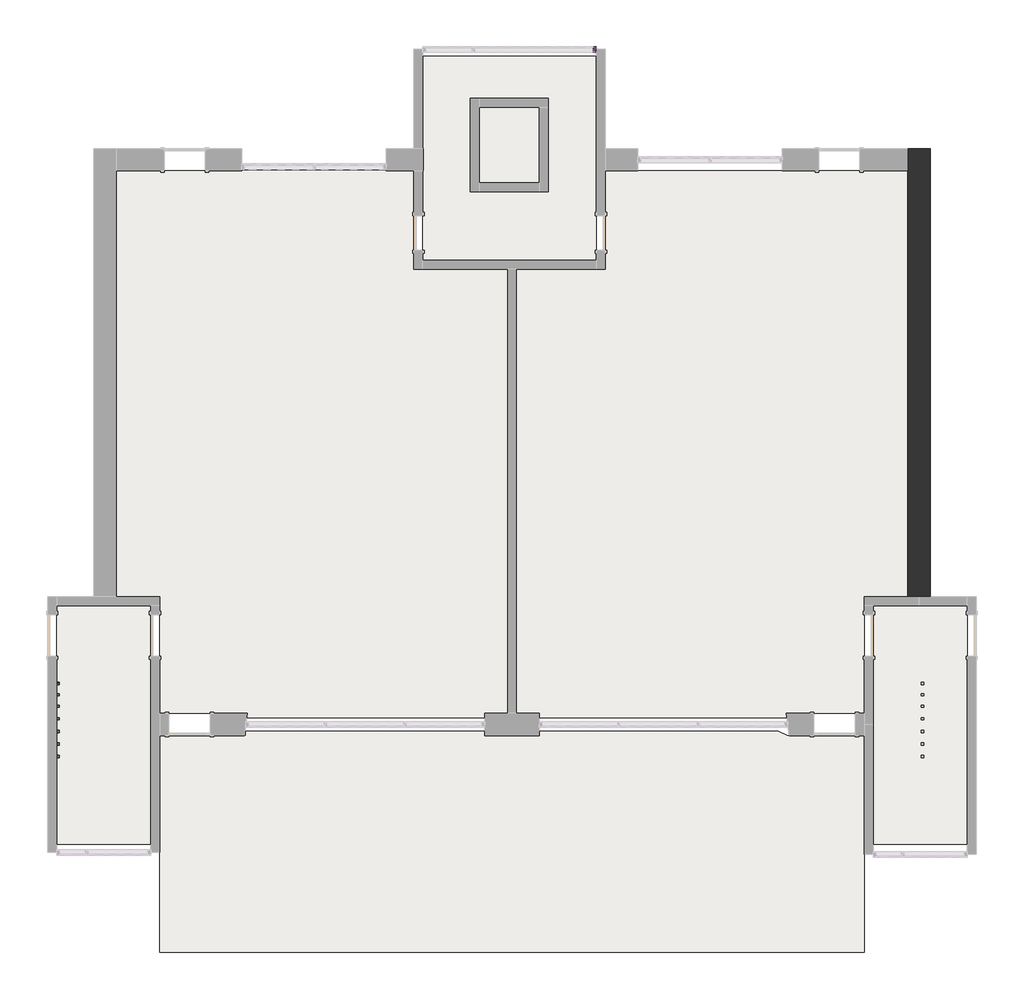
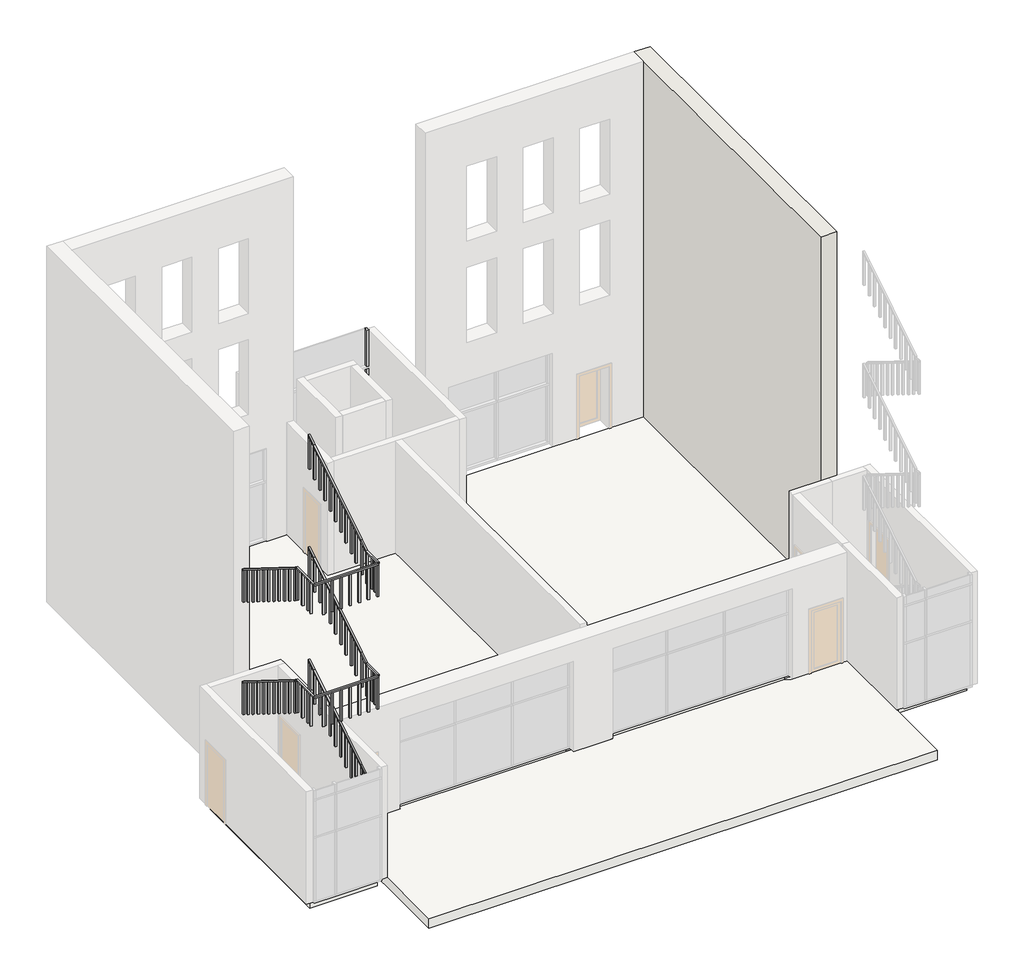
# One storey, part 3 of 4: 5 slabs, 2 members, 1 railing, 1 wall.
"""IFC4 building model written with IfcOpenShell, lengths in millimetres."""

from ifc_helpers import new_model, si_unit, frame, origin, place, context, project, spatial, polyline, outline, extrude, faceted_brep, element, save

model = new_model("IFC4")

# Units and contexts
model_context = context("Model", 3, world=origin())
ifc_project = project(units=[si_unit("LENGTHUNIT", "METRE", prefix="MILLI")], contexts=[model_context])

# Site, building, storey
site = spatial("IfcSite", under=ifc_project)
building = spatial("IfcBuilding", under=site)
storey = spatial("IfcBuildingStorey", under=building, Name="1st Flr. Cnst.", Elevation=0.0)

# Members
placement = place(None, origin())
element("IfcMember", 1, ObjectType="Rectangular Mullion : 2.5\" x 5\" rectangular", at=placement, inside=storey, context=model_context, shape_type="SweptSolid", body=[
    extrude(outline(polyline([(9618.6821195, 12022.7617365), (9555.1821195, 12022.7617365), (9555.1821195, 12149.7617365), (9618.6821195, 12149.7617365), (9618.6821195, 12022.7617365)])), frame((0.0, 0.0, 63.5), z_axis=(0.0, 0.0, 1.0), x_axis=(1.0, 0.0, 0.0)), (0.0, 0.0, 1.0), 2343.15),
])
element("IfcMember", 2, ObjectType="Rectangular Mullion : 2.5\" x 5\" rectangular", at=placement, inside=storey, context=model_context, shape_type="SweptSolid", body=[
    extrude(outline(polyline([(9618.6821195, 12022.7617365), (9555.1821195, 12022.7617365), (9555.1821195, 12149.7617365), (9618.6821195, 12149.7617365), (9618.6821195, 12022.7617365)])), frame((0.0, 0.0, 2470.15), z_axis=(0.0, 0.0, 1.0), x_axis=(1.0, 0.0, 0.0)), (0.0, 0.0, 1.0), 1187.45),
])

# Railing
element("IfcRailing", 3, ObjectType="Stairs Railing 1", at=placement, inside=storey, context=model_context, shape_type="SweptSolid", body=[
    extrude(outline(polyline([(-4763.1115872, 10247.0857143), (-4763.1115872, 10297.8857143), (-1969.1115872, 8556.1714286), (-1969.1115872, 8505.3714286), (-4763.1115872, 10247.0857143)])), frame((-2364.2286996, 0.0, 0.0), z_axis=(1.0, 0.0, 0.0), x_axis=(0.0, 1.0, 0.0)), (0.0, 0.0, 1.0), 50.8),
    extrude(outline(polyline([(-1969.1115872, 8505.3714286), (-1969.1115872, 7489.3714286), (-2019.9115872, 7489.3714286), (-2019.9115872, 8537.038961), (-1969.1115872, 8505.3714286)])), frame((-2364.2286996, 0.0, 0.0), z_axis=(1.0, 0.0, 0.0), x_axis=(0.0, 1.0, 0.0)), (0.0, 0.0, 1.0), 50.8),
    extrude(outline(polyline([(-2223.1115872, 8663.7090909), (-2223.1115872, 7647.7090909), (-2273.9115872, 7647.7090909), (-2273.9115872, 8695.3766234), (-2223.1115872, 8663.7090909)])), frame((-2364.2286996, 0.0, 0.0), z_axis=(1.0, 0.0, 0.0), x_axis=(0.0, 1.0, 0.0)), (0.0, 0.0, 1.0), 50.8),
    extrude(outline(polyline([(-2477.1115872, 8822.0467532), (-2477.1115872, 7806.0467532), (-2527.9115872, 7806.0467532), (-2527.9115872, 8853.7142857), (-2477.1115872, 8822.0467532)])), frame((-2364.2286996, 0.0, 0.0), z_axis=(1.0, 0.0, 0.0), x_axis=(0.0, 1.0, 0.0)), (0.0, 0.0, 1.0), 50.8),
    extrude(outline(polyline([(-2756.5115872, 8996.2181818), (-2756.5115872, 7980.2181818), (-2807.3115872, 7980.2181818), (-2807.3115872, 9027.8857143), (-2756.5115872, 8996.2181818)])), frame((-2364.2286996, 0.0, 0.0), z_axis=(1.0, 0.0, 0.0), x_axis=(0.0, 1.0, 0.0)), (0.0, 0.0, 1.0), 50.8),
    extrude(outline(polyline([(-3035.9115872, 9170.3896104), (-3035.9115872, 8154.3896104), (-3086.7115872, 8154.3896104), (-3086.7115872, 9202.0571429), (-3035.9115872, 9170.3896104)])), frame((-2364.2286996, 0.0, 0.0), z_axis=(1.0, 0.0, 0.0), x_axis=(0.0, 1.0, 0.0)), (0.0, 0.0, 1.0), 50.8),
    extrude(outline(polyline([(-3315.3115872, 9344.561039), (-3315.3115872, 8328.561039), (-3366.1115872, 8328.561039), (-3366.1115872, 9376.2285714), (-3315.3115872, 9344.561039)])), frame((-2364.2286996, 0.0, 0.0), z_axis=(1.0, 0.0, 0.0), x_axis=(0.0, 1.0, 0.0)), (0.0, 0.0, 1.0), 50.8),
    extrude(outline(polyline([(-3594.7115872, 9518.7324675), (-3594.7115872, 8502.7324675), (-3645.5115872, 8502.7324675), (-3645.5115872, 9550.4), (-3594.7115872, 9518.7324675)])), frame((-2364.2286996, 0.0, 0.0), z_axis=(1.0, 0.0, 0.0), x_axis=(0.0, 1.0, 0.0)), (0.0, 0.0, 1.0), 50.8),
    extrude(outline(polyline([(-3874.1115872, 9692.9038961), (-3874.1115872, 8676.9038961), (-3924.9115872, 8676.9038961), (-3924.9115872, 9724.5714286), (-3874.1115872, 9692.9038961)])), frame((-2364.2286996, 0.0, 0.0), z_axis=(1.0, 0.0, 0.0), x_axis=(0.0, 1.0, 0.0)), (0.0, 0.0, 1.0), 50.8),
    extrude(outline(polyline([(-4153.5115872, 9867.0753247), (-4153.5115872, 8851.0753247), (-4204.3115872, 8851.0753247), (-4204.3115872, 9898.7428571), (-4153.5115872, 9867.0753247)])), frame((-2364.2286996, 0.0, 0.0), z_axis=(1.0, 0.0, 0.0), x_axis=(0.0, 1.0, 0.0)), (0.0, 0.0, 1.0), 50.8),
    extrude(outline(polyline([(-4432.9115872, 10041.2467532), (-4432.9115872, 9025.2467532), (-4483.7115872, 9025.2467532), (-4483.7115872, 10072.9142857), (-4432.9115872, 10041.2467532)])), frame((-2364.2286996, 0.0, 0.0), z_axis=(1.0, 0.0, 0.0), x_axis=(0.0, 1.0, 0.0)), (0.0, 0.0, 1.0), 50.8),
    extrude(outline(polyline([(-4712.3115872, 10215.4181818), (-4712.3115872, 9199.4181818), (-4763.1115872, 9199.4181818), (-4763.1115872, 10247.0857143), (-4712.3115872, 10215.4181818)])), frame((-2364.2286996, 0.0, 0.0), z_axis=(1.0, 0.0, 0.0), x_axis=(0.0, 1.0, 0.0)), (0.0, 0.0, 1.0), 50.8),
    extrude(outline(polyline([(-2313.4286996, -4763.1115872), (-2262.6286996, -4763.1115872), (-2262.6286996, -5677.5115872), (-2313.4286996, -5677.5115872), (-2313.4286996, -4763.1115872)])), frame((0.0, 0.0, 10247.0857143), z_axis=(0.0, 0.0, 1.0), x_axis=(1.0, 0.0, 0.0)), (0.0, 0.0, 1.0), 50.8),
    extrude(outline(polyline([(-2313.4286996, -5525.1115872), (-2313.4286996, -5474.3115872), (-2262.6286996, -5474.3115872), (-2262.6286996, -5525.1115872), (-2313.4286996, -5525.1115872)])), frame((0.0, 0.0, 9231.0857143), z_axis=(0.0, 0.0, 1.0), x_axis=(1.0, 0.0, 0.0)), (0.0, 0.0, 1.0), 1016.0),
    extrude(outline(polyline([(-2313.4286996, -5372.7115872), (-2313.4286996, -5321.9115872), (-2262.6286996, -5321.9115872), (-2262.6286996, -5372.7115872), (-2313.4286996, -5372.7115872)])), frame((0.0, 0.0, 9231.0857143), z_axis=(0.0, 0.0, 1.0), x_axis=(1.0, 0.0, 0.0)), (0.0, 0.0, 1.0), 1016.0),
    extrude(outline(polyline([(-2313.4286996, -5093.3115872), (-2313.4286996, -5042.5115872), (-2262.6286996, -5042.5115872), (-2262.6286996, -5093.3115872), (-2313.4286996, -5093.3115872)])), frame((0.0, 0.0, 9231.0857143), z_axis=(0.0, 0.0, 1.0), x_axis=(1.0, 0.0, 0.0)), (0.0, 0.0, 1.0), 1016.0),
    extrude(outline(polyline([(-2313.4286996, -4813.9115872), (-2313.4286996, -4763.1115872), (-2262.6286996, -4763.1115872), (-2262.6286996, -4813.9115872), (-2313.4286996, -4813.9115872)])), frame((0.0, 0.0, 9231.0857143), z_axis=(0.0, 0.0, 1.0), x_axis=(1.0, 0.0, 0.0)), (0.0, 0.0, 1.0), 1016.0),
    extrude(outline(polyline([(-332.2286996, -5677.5115872), (-332.2286996, -5728.3115872), (-2313.4286996, -5728.3115872), (-2313.4286996, -5677.5115872), (-332.2286996, -5677.5115872)])), frame((0.0, 0.0, 10247.0857143), z_axis=(0.0, 0.0, 1.0), x_axis=(1.0, 0.0, 0.0)), (0.0, 0.0, 1.0), 50.8),
    extrude(outline(polyline([(-2046.7286996, -5677.5115872), (-1995.9286996, -5677.5115872), (-1995.9286996, -5728.3115872), (-2046.7286996, -5728.3115872), (-2046.7286996, -5677.5115872)])), frame((0.0, 0.0, 9231.0857143), z_axis=(0.0, 0.0, 1.0), x_axis=(1.0, 0.0, 0.0)), (0.0, 0.0, 1.0), 1016.0),
    extrude(outline(polyline([(-1780.0286996, -5677.5115872), (-1729.2286996, -5677.5115872), (-1729.2286996, -5728.3115872), (-1780.0286996, -5728.3115872), (-1780.0286996, -5677.5115872)])), frame((0.0, 0.0, 9231.0857143), z_axis=(0.0, 0.0, 1.0), x_axis=(1.0, 0.0, 0.0)), (0.0, 0.0, 1.0), 1016.0),
    extrude(outline(polyline([(-1500.6286996, -5677.5115872), (-1449.8286996, -5677.5115872), (-1449.8286996, -5728.3115872), (-1500.6286996, -5728.3115872), (-1500.6286996, -5677.5115872)])), frame((0.0, 0.0, 9231.0857143), z_axis=(0.0, 0.0, 1.0), x_axis=(1.0, 0.0, 0.0)), (0.0, 0.0, 1.0), 1016.0),
    extrude(outline(polyline([(-1221.2286996, -5677.5115872), (-1170.4286996, -5677.5115872), (-1170.4286996, -5728.3115872), (-1221.2286996, -5728.3115872), (-1221.2286996, -5677.5115872)])), frame((0.0, 0.0, 9231.0857143), z_axis=(0.0, 0.0, 1.0), x_axis=(1.0, 0.0, 0.0)), (0.0, 0.0, 1.0), 1016.0),
    extrude(outline(polyline([(-941.8286996, -5677.5115872), (-891.0286996, -5677.5115872), (-891.0286996, -5728.3115872), (-941.8286996, -5728.3115872), (-941.8286996, -5677.5115872)])), frame((0.0, 0.0, 9231.0857143), z_axis=(0.0, 0.0, 1.0), x_axis=(1.0, 0.0, 0.0)), (0.0, 0.0, 1.0), 1016.0),
    extrude(outline(polyline([(-662.4286996, -5677.5115872), (-611.6286996, -5677.5115872), (-611.6286996, -5728.3115872), (-662.4286996, -5728.3115872), (-662.4286996, -5677.5115872)])), frame((0.0, 0.0, 9231.0857143), z_axis=(0.0, 0.0, 1.0), x_axis=(1.0, 0.0, 0.0)), (0.0, 0.0, 1.0), 1016.0),
    extrude(outline(polyline([(-383.0286996, -5677.5115872), (-332.2286996, -5677.5115872), (-332.2286996, -5728.3115872), (-383.0286996, -5728.3115872), (-383.0286996, -5677.5115872)])), frame((0.0, 0.0, 9231.0857143), z_axis=(0.0, 0.0, 1.0), x_axis=(1.0, 0.0, 0.0)), (0.0, 0.0, 1.0), 1016.0),
    extrude(outline(polyline([(-332.2286996, -5042.5115872), (-281.4286996, -5042.5115872), (-281.4286996, -5677.5115872), (-332.2286996, -5677.5115872), (-332.2286996, -5042.5115872)])), frame((0.0, 0.0, 10247.0857143), z_axis=(0.0, 0.0, 1.0), x_axis=(1.0, 0.0, 0.0)), (0.0, 0.0, 1.0), 50.8),
    extrude(outline(polyline([(-332.2286996, -5525.1115872), (-332.2286996, -5474.3115872), (-281.4286996, -5474.3115872), (-281.4286996, -5525.1115872), (-332.2286996, -5525.1115872)])), frame((0.0, 0.0, 9231.0857143), z_axis=(0.0, 0.0, 1.0), x_axis=(1.0, 0.0, 0.0)), (0.0, 0.0, 1.0), 1016.0),
    extrude(outline(polyline([(-332.2286996, -5372.7115872), (-332.2286996, -5321.9115872), (-281.4286996, -5321.9115872), (-281.4286996, -5372.7115872), (-332.2286996, -5372.7115872)])), frame((0.0, 0.0, 9231.0857143), z_axis=(0.0, 0.0, 1.0), x_axis=(1.0, 0.0, 0.0)), (0.0, 0.0, 1.0), 1016.0),
    extrude(outline(polyline([(-332.2286996, -5093.3115872), (-332.2286996, -5042.5115872), (-281.4286996, -5042.5115872), (-281.4286996, -5093.3115872), (-332.2286996, -5093.3115872)])), frame((0.0, 0.0, 9231.0857143), z_axis=(0.0, 0.0, 1.0), x_axis=(1.0, 0.0, 0.0)), (0.0, 0.0, 1.0), 1016.0),
    extrude(outline(polyline([(-4763.1115872, 10472.0571429), (-4763.1115872, 10421.2571429), (-5042.5115872, 10247.0857143), (-5042.5115872, 10297.8857143), (-4763.1115872, 10472.0571429)])), frame((-332.2286996, 0.0, 0.0), z_axis=(1.0, 0.0, 0.0), x_axis=(0.0, 1.0, 0.0)), (0.0, 0.0, 1.0), 50.8),
    extrude(outline(polyline([(-4763.1115872, 10421.2571429), (-4763.1115872, 9373.5896104), (-4813.9115872, 9373.5896104), (-4813.9115872, 10389.5896104), (-4763.1115872, 10421.2571429)])), frame((-332.2286996, 0.0, 0.0), z_axis=(1.0, 0.0, 0.0), x_axis=(0.0, 1.0, 0.0)), (0.0, 0.0, 1.0), 50.8),
    extrude(outline(polyline([(-2248.5115872, 12039.6), (-2248.5115872, 11988.8), (-4763.1115872, 10421.2571429), (-4763.1115872, 10472.0571429), (-2248.5115872, 12039.6)])), frame((-332.2286996, 0.0, 0.0), z_axis=(1.0, 0.0, 0.0), x_axis=(0.0, 1.0, 0.0)), (0.0, 0.0, 1.0), 50.8),
    extrude(outline(polyline([(-4458.3115872, 10611.2623377), (-4458.3115872, 9563.5948052), (-4509.1115872, 9563.5948052), (-4509.1115872, 10579.5948052), (-4458.3115872, 10611.2623377)])), frame((-332.2286996, 0.0, 0.0), z_axis=(1.0, 0.0, 0.0), x_axis=(0.0, 1.0, 0.0)), (0.0, 0.0, 1.0), 50.8),
    extrude(outline(polyline([(-4204.3115872, 10769.6), (-4204.3115872, 9721.9324675), (-4255.1115872, 9721.9324675), (-4255.1115872, 10737.9324675), (-4204.3115872, 10769.6)])), frame((-332.2286996, 0.0, 0.0), z_axis=(1.0, 0.0, 0.0), x_axis=(0.0, 1.0, 0.0)), (0.0, 0.0, 1.0), 50.8),
    extrude(outline(polyline([(-3924.9115872, 10943.7714286), (-3924.9115872, 9896.1038961), (-3975.7115872, 9896.1038961), (-3975.7115872, 10912.1038961), (-3924.9115872, 10943.7714286)])), frame((-332.2286996, 0.0, 0.0), z_axis=(1.0, 0.0, 0.0), x_axis=(0.0, 1.0, 0.0)), (0.0, 0.0, 1.0), 50.8),
    extrude(outline(polyline([(-3645.5115872, 11117.9428571), (-3645.5115872, 10070.2753247), (-3696.3115872, 10070.2753247), (-3696.3115872, 11086.2753247), (-3645.5115872, 11117.9428571)])), frame((-332.2286996, 0.0, 0.0), z_axis=(1.0, 0.0, 0.0), x_axis=(0.0, 1.0, 0.0)), (0.0, 0.0, 1.0), 50.8),
    extrude(outline(polyline([(-3366.1115872, 11292.1142857), (-3366.1115872, 10244.4467532), (-3416.9115872, 10244.4467532), (-3416.9115872, 11260.4467532), (-3366.1115872, 11292.1142857)])), frame((-332.2286996, 0.0, 0.0), z_axis=(1.0, 0.0, 0.0), x_axis=(0.0, 1.0, 0.0)), (0.0, 0.0, 1.0), 50.8),
    extrude(outline(polyline([(-3086.7115872, 11466.2857143), (-3086.7115872, 10418.6181818), (-3137.5115872, 10418.6181818), (-3137.5115872, 11434.6181818), (-3086.7115872, 11466.2857143)])), frame((-332.2286996, 0.0, 0.0), z_axis=(1.0, 0.0, 0.0), x_axis=(0.0, 1.0, 0.0)), (0.0, 0.0, 1.0), 50.8),
    extrude(outline(polyline([(-2807.3115872, 11640.4571429), (-2807.3115872, 10592.7896104), (-2858.1115872, 10592.7896104), (-2858.1115872, 11608.7896104), (-2807.3115872, 11640.4571429)])), frame((-332.2286996, 0.0, 0.0), z_axis=(1.0, 0.0, 0.0), x_axis=(0.0, 1.0, 0.0)), (0.0, 0.0, 1.0), 50.8),
    extrude(outline(polyline([(-2527.9115872, 11814.6285714), (-2527.9115872, 10766.961039), (-2578.7115872, 10766.961039), (-2578.7115872, 11782.961039), (-2527.9115872, 11814.6285714)])), frame((-332.2286996, 0.0, 0.0), z_axis=(1.0, 0.0, 0.0), x_axis=(0.0, 1.0, 0.0)), (0.0, 0.0, 1.0), 50.8),
    extrude(outline(polyline([(-2248.5115872, 11988.8), (-2248.5115872, 10941.1324675), (-2299.3115872, 10941.1324675), (-2299.3115872, 11957.1324675), (-2248.5115872, 11988.8)])), frame((-332.2286996, 0.0, 0.0), z_axis=(1.0, 0.0, 0.0), x_axis=(0.0, 1.0, 0.0)), (0.0, 0.0, 1.0), 50.8),
    extrude(outline(polyline([(-1969.1115872, 12213.7714286), (-1969.1115872, 12162.9714286), (-2248.5115872, 11988.8), (-2248.5115872, 12039.6), (-1969.1115872, 12213.7714286)])), frame((-332.2286996, 0.0, 0.0), z_axis=(1.0, 0.0, 0.0), x_axis=(0.0, 1.0, 0.0)), (0.0, 0.0, 1.0), 50.8),
    extrude(outline(polyline([(-1969.1115872, 12162.9714286), (-1969.1115872, 11115.3038961), (-2019.9115872, 11115.3038961), (-2019.9115872, 12131.3038961), (-1969.1115872, 12162.9714286)])), frame((-332.2286996, 0.0, 0.0), z_axis=(1.0, 0.0, 0.0), x_axis=(0.0, 1.0, 0.0)), (0.0, 0.0, 1.0), 50.8),
    extrude(outline(polyline([(-4763.1115872, 6589.4857143), (-4763.1115872, 6640.2857143), (-1969.1115872, 4898.5714286), (-1969.1115872, 4847.7714286), (-4763.1115872, 6589.4857143)])), frame((-2364.2286996, 0.0, 0.0), z_axis=(1.0, 0.0, 0.0), x_axis=(0.0, 1.0, 0.0)), (0.0, 0.0, 1.0), 50.8),
    extrude(outline(polyline([(-1969.1115872, 4847.7714286), (-1969.1115872, 3831.7714286), (-2019.9115872, 3831.7714286), (-2019.9115872, 4879.438961), (-1969.1115872, 4847.7714286)])), frame((-2364.2286996, 0.0, 0.0), z_axis=(1.0, 0.0, 0.0), x_axis=(0.0, 1.0, 0.0)), (0.0, 0.0, 1.0), 50.8),
    extrude(outline(polyline([(-2223.1115872, 5006.1090909), (-2223.1115872, 3990.1090909), (-2273.9115872, 3990.1090909), (-2273.9115872, 5037.7766234), (-2223.1115872, 5006.1090909)])), frame((-2364.2286996, 0.0, 0.0), z_axis=(1.0, 0.0, 0.0), x_axis=(0.0, 1.0, 0.0)), (0.0, 0.0, 1.0), 50.8),
    extrude(outline(polyline([(-2477.1115872, 5164.4467532), (-2477.1115872, 4148.4467532), (-2527.9115872, 4148.4467532), (-2527.9115872, 5196.1142857), (-2477.1115872, 5164.4467532)])), frame((-2364.2286996, 0.0, 0.0), z_axis=(1.0, 0.0, 0.0), x_axis=(0.0, 1.0, 0.0)), (0.0, 0.0, 1.0), 50.8),
    extrude(outline(polyline([(-2756.5115872, 5338.6181818), (-2756.5115872, 4322.6181818), (-2807.3115872, 4322.6181818), (-2807.3115872, 5370.2857143), (-2756.5115872, 5338.6181818)])), frame((-2364.2286996, 0.0, 0.0), z_axis=(1.0, 0.0, 0.0), x_axis=(0.0, 1.0, 0.0)), (0.0, 0.0, 1.0), 50.8),
    extrude(outline(polyline([(-3035.9115872, 5512.7896104), (-3035.9115872, 4496.7896104), (-3086.7115872, 4496.7896104), (-3086.7115872, 5544.4571429), (-3035.9115872, 5512.7896104)])), frame((-2364.2286996, 0.0, 0.0), z_axis=(1.0, 0.0, 0.0), x_axis=(0.0, 1.0, 0.0)), (0.0, 0.0, 1.0), 50.8),
    extrude(outline(polyline([(-3315.3115872, 5686.961039), (-3315.3115872, 4670.961039), (-3366.1115872, 4670.961039), (-3366.1115872, 5718.6285714), (-3315.3115872, 5686.961039)])), frame((-2364.2286996, 0.0, 0.0), z_axis=(1.0, 0.0, 0.0), x_axis=(0.0, 1.0, 0.0)), (0.0, 0.0, 1.0), 50.8),
    extrude(outline(polyline([(-3594.7115872, 5861.1324675), (-3594.7115872, 4845.1324675), (-3645.5115872, 4845.1324675), (-3645.5115872, 5892.8), (-3594.7115872, 5861.1324675)])), frame((-2364.2286996, 0.0, 0.0), z_axis=(1.0, 0.0, 0.0), x_axis=(0.0, 1.0, 0.0)), (0.0, 0.0, 1.0), 50.8),
    extrude(outline(polyline([(-3874.1115872, 6035.3038961), (-3874.1115872, 5019.3038961), (-3924.9115872, 5019.3038961), (-3924.9115872, 6066.9714286), (-3874.1115872, 6035.3038961)])), frame((-2364.2286996, 0.0, 0.0), z_axis=(1.0, 0.0, 0.0), x_axis=(0.0, 1.0, 0.0)), (0.0, 0.0, 1.0), 50.8),
    extrude(outline(polyline([(-4153.5115872, 6209.4753247), (-4153.5115872, 5193.4753247), (-4204.3115872, 5193.4753247), (-4204.3115872, 6241.1428571), (-4153.5115872, 6209.4753247)])), frame((-2364.2286996, 0.0, 0.0), z_axis=(1.0, 0.0, 0.0), x_axis=(0.0, 1.0, 0.0)), (0.0, 0.0, 1.0), 50.8),
    extrude(outline(polyline([(-4432.9115872, 6383.6467532), (-4432.9115872, 5367.6467532), (-4483.7115872, 5367.6467532), (-4483.7115872, 6415.3142857), (-4432.9115872, 6383.6467532)])), frame((-2364.2286996, 0.0, 0.0), z_axis=(1.0, 0.0, 0.0), x_axis=(0.0, 1.0, 0.0)), (0.0, 0.0, 1.0), 50.8),
    extrude(outline(polyline([(-4712.3115872, 6557.8181818), (-4712.3115872, 5541.8181818), (-4763.1115872, 5541.8181818), (-4763.1115872, 6589.4857143), (-4712.3115872, 6557.8181818)])), frame((-2364.2286996, 0.0, 0.0), z_axis=(1.0, 0.0, 0.0), x_axis=(0.0, 1.0, 0.0)), (0.0, 0.0, 1.0), 50.8),
    extrude(outline(polyline([(-2313.4286996, -4763.1115872), (-2262.6286996, -4763.1115872), (-2262.6286996, -5677.5115872), (-2313.4286996, -5677.5115872), (-2313.4286996, -4763.1115872)])), frame((0.0, 0.0, 6589.4857143), z_axis=(0.0, 0.0, 1.0), x_axis=(1.0, 0.0, 0.0)), (0.0, 0.0, 1.0), 50.8),
    extrude(outline(polyline([(-2313.4286996, -5525.1115872), (-2313.4286996, -5474.3115872), (-2262.6286996, -5474.3115872), (-2262.6286996, -5525.1115872), (-2313.4286996, -5525.1115872)])), frame((0.0, 0.0, 5573.4857143), z_axis=(0.0, 0.0, 1.0), x_axis=(1.0, 0.0, 0.0)), (0.0, 0.0, 1.0), 1016.0),
    extrude(outline(polyline([(-2313.4286996, -5372.7115872), (-2313.4286996, -5321.9115872), (-2262.6286996, -5321.9115872), (-2262.6286996, -5372.7115872), (-2313.4286996, -5372.7115872)])), frame((0.0, 0.0, 5573.4857143), z_axis=(0.0, 0.0, 1.0), x_axis=(1.0, 0.0, 0.0)), (0.0, 0.0, 1.0), 1016.0),
    extrude(outline(polyline([(-2313.4286996, -5093.3115872), (-2313.4286996, -5042.5115872), (-2262.6286996, -5042.5115872), (-2262.6286996, -5093.3115872), (-2313.4286996, -5093.3115872)])), frame((0.0, 0.0, 5573.4857143), z_axis=(0.0, 0.0, 1.0), x_axis=(1.0, 0.0, 0.0)), (0.0, 0.0, 1.0), 1016.0),
    extrude(outline(polyline([(-2313.4286996, -4813.9115872), (-2313.4286996, -4763.1115872), (-2262.6286996, -4763.1115872), (-2262.6286996, -4813.9115872), (-2313.4286996, -4813.9115872)])), frame((0.0, 0.0, 5573.4857143), z_axis=(0.0, 0.0, 1.0), x_axis=(1.0, 0.0, 0.0)), (0.0, 0.0, 1.0), 1016.0),
    extrude(outline(polyline([(-332.2286996, -5677.5115872), (-332.2286996, -5728.3115872), (-2313.4286996, -5728.3115872), (-2313.4286996, -5677.5115872), (-332.2286996, -5677.5115872)])), frame((0.0, 0.0, 6589.4857143), z_axis=(0.0, 0.0, 1.0), x_axis=(1.0, 0.0, 0.0)), (0.0, 0.0, 1.0), 50.8),
    extrude(outline(polyline([(-2046.7286996, -5677.5115872), (-1995.9286996, -5677.5115872), (-1995.9286996, -5728.3115872), (-2046.7286996, -5728.3115872), (-2046.7286996, -5677.5115872)])), frame((0.0, 0.0, 5573.4857143), z_axis=(0.0, 0.0, 1.0), x_axis=(1.0, 0.0, 0.0)), (0.0, 0.0, 1.0), 1016.0),
    extrude(outline(polyline([(-1780.0286996, -5677.5115872), (-1729.2286996, -5677.5115872), (-1729.2286996, -5728.3115872), (-1780.0286996, -5728.3115872), (-1780.0286996, -5677.5115872)])), frame((0.0, 0.0, 5573.4857143), z_axis=(0.0, 0.0, 1.0), x_axis=(1.0, 0.0, 0.0)), (0.0, 0.0, 1.0), 1016.0),
    extrude(outline(polyline([(-1500.6286996, -5677.5115872), (-1449.8286996, -5677.5115872), (-1449.8286996, -5728.3115872), (-1500.6286996, -5728.3115872), (-1500.6286996, -5677.5115872)])), frame((0.0, 0.0, 5573.4857143), z_axis=(0.0, 0.0, 1.0), x_axis=(1.0, 0.0, 0.0)), (0.0, 0.0, 1.0), 1016.0),
    extrude(outline(polyline([(-1221.2286996, -5677.5115872), (-1170.4286996, -5677.5115872), (-1170.4286996, -5728.3115872), (-1221.2286996, -5728.3115872), (-1221.2286996, -5677.5115872)])), frame((0.0, 0.0, 5573.4857143), z_axis=(0.0, 0.0, 1.0), x_axis=(1.0, 0.0, 0.0)), (0.0, 0.0, 1.0), 1016.0),
    extrude(outline(polyline([(-941.8286996, -5677.5115872), (-891.0286996, -5677.5115872), (-891.0286996, -5728.3115872), (-941.8286996, -5728.3115872), (-941.8286996, -5677.5115872)])), frame((0.0, 0.0, 5573.4857143), z_axis=(0.0, 0.0, 1.0), x_axis=(1.0, 0.0, 0.0)), (0.0, 0.0, 1.0), 1016.0),
    extrude(outline(polyline([(-662.4286996, -5677.5115872), (-611.6286996, -5677.5115872), (-611.6286996, -5728.3115872), (-662.4286996, -5728.3115872), (-662.4286996, -5677.5115872)])), frame((0.0, 0.0, 5573.4857143), z_axis=(0.0, 0.0, 1.0), x_axis=(1.0, 0.0, 0.0)), (0.0, 0.0, 1.0), 1016.0),
    extrude(outline(polyline([(-383.0286996, -5677.5115872), (-332.2286996, -5677.5115872), (-332.2286996, -5728.3115872), (-383.0286996, -5728.3115872), (-383.0286996, -5677.5115872)])), frame((0.0, 0.0, 5573.4857143), z_axis=(0.0, 0.0, 1.0), x_axis=(1.0, 0.0, 0.0)), (0.0, 0.0, 1.0), 1016.0),
    extrude(outline(polyline([(-332.2286996, -5042.5115872), (-281.4286996, -5042.5115872), (-281.4286996, -5677.5115872), (-332.2286996, -5677.5115872), (-332.2286996, -5042.5115872)])), frame((0.0, 0.0, 6589.4857143), z_axis=(0.0, 0.0, 1.0), x_axis=(1.0, 0.0, 0.0)), (0.0, 0.0, 1.0), 50.8),
    extrude(outline(polyline([(-332.2286996, -5525.1115872), (-332.2286996, -5474.3115872), (-281.4286996, -5474.3115872), (-281.4286996, -5525.1115872), (-332.2286996, -5525.1115872)])), frame((0.0, 0.0, 5573.4857143), z_axis=(0.0, 0.0, 1.0), x_axis=(1.0, 0.0, 0.0)), (0.0, 0.0, 1.0), 1016.0),
    extrude(outline(polyline([(-332.2286996, -5372.7115872), (-332.2286996, -5321.9115872), (-281.4286996, -5321.9115872), (-281.4286996, -5372.7115872), (-332.2286996, -5372.7115872)])), frame((0.0, 0.0, 5573.4857143), z_axis=(0.0, 0.0, 1.0), x_axis=(1.0, 0.0, 0.0)), (0.0, 0.0, 1.0), 1016.0),
    extrude(outline(polyline([(-332.2286996, -5093.3115872), (-332.2286996, -5042.5115872), (-281.4286996, -5042.5115872), (-281.4286996, -5093.3115872), (-332.2286996, -5093.3115872)])), frame((0.0, 0.0, 5573.4857143), z_axis=(0.0, 0.0, 1.0), x_axis=(1.0, 0.0, 0.0)), (0.0, 0.0, 1.0), 1016.0),
    extrude(outline(polyline([(-4763.1115872, 6814.4571429), (-4763.1115872, 6763.6571429), (-5042.5115872, 6589.4857143), (-5042.5115872, 6640.2857143), (-4763.1115872, 6814.4571429)])), frame((-332.2286996, 0.0, 0.0), z_axis=(1.0, 0.0, 0.0), x_axis=(0.0, 1.0, 0.0)), (0.0, 0.0, 1.0), 50.8),
    extrude(outline(polyline([(-4763.1115872, 6763.6571429), (-4763.1115872, 5715.9896104), (-4813.9115872, 5715.9896104), (-4813.9115872, 6731.9896104), (-4763.1115872, 6763.6571429)])), frame((-332.2286996, 0.0, 0.0), z_axis=(1.0, 0.0, 0.0), x_axis=(0.0, 1.0, 0.0)), (0.0, 0.0, 1.0), 50.8),
    extrude(outline(polyline([(-2248.5115872, 8382.0), (-2248.5115872, 8331.2), (-4763.1115872, 6763.6571429), (-4763.1115872, 6814.4571429), (-2248.5115872, 8382.0)])), frame((-332.2286996, 0.0, 0.0), z_axis=(1.0, 0.0, 0.0), x_axis=(0.0, 1.0, 0.0)), (0.0, 0.0, 1.0), 50.8),
    extrude(outline(polyline([(-4458.3115872, 6953.6623377), (-4458.3115872, 5905.9948052), (-4509.1115872, 5905.9948052), (-4509.1115872, 6921.9948052), (-4458.3115872, 6953.6623377)])), frame((-332.2286996, 0.0, 0.0), z_axis=(1.0, 0.0, 0.0), x_axis=(0.0, 1.0, 0.0)), (0.0, 0.0, 1.0), 50.8),
    extrude(outline(polyline([(-4204.3115872, 7112.0), (-4204.3115872, 6064.3324675), (-4255.1115872, 6064.3324675), (-4255.1115872, 7080.3324675), (-4204.3115872, 7112.0)])), frame((-332.2286996, 0.0, 0.0), z_axis=(1.0, 0.0, 0.0), x_axis=(0.0, 1.0, 0.0)), (0.0, 0.0, 1.0), 50.8),
    extrude(outline(polyline([(-3924.9115872, 7286.1714286), (-3924.9115872, 6238.5038961), (-3975.7115872, 6238.5038961), (-3975.7115872, 7254.5038961), (-3924.9115872, 7286.1714286)])), frame((-332.2286996, 0.0, 0.0), z_axis=(1.0, 0.0, 0.0), x_axis=(0.0, 1.0, 0.0)), (0.0, 0.0, 1.0), 50.8),
    extrude(outline(polyline([(-3645.5115872, 7460.3428571), (-3645.5115872, 6412.6753247), (-3696.3115872, 6412.6753247), (-3696.3115872, 7428.6753247), (-3645.5115872, 7460.3428571)])), frame((-332.2286996, 0.0, 0.0), z_axis=(1.0, 0.0, 0.0), x_axis=(0.0, 1.0, 0.0)), (0.0, 0.0, 1.0), 50.8),
    extrude(outline(polyline([(-3366.1115872, 7634.5142857), (-3366.1115872, 6586.8467532), (-3416.9115872, 6586.8467532), (-3416.9115872, 7602.8467532), (-3366.1115872, 7634.5142857)])), frame((-332.2286996, 0.0, 0.0), z_axis=(1.0, 0.0, 0.0), x_axis=(0.0, 1.0, 0.0)), (0.0, 0.0, 1.0), 50.8),
    extrude(outline(polyline([(-3086.7115872, 7808.6857143), (-3086.7115872, 6761.0181818), (-3137.5115872, 6761.0181818), (-3137.5115872, 7777.0181818), (-3086.7115872, 7808.6857143)])), frame((-332.2286996, 0.0, 0.0), z_axis=(1.0, 0.0, 0.0), x_axis=(0.0, 1.0, 0.0)), (0.0, 0.0, 1.0), 50.8),
    extrude(outline(polyline([(-2807.3115872, 7982.8571429), (-2807.3115872, 6935.1896104), (-2858.1115872, 6935.1896104), (-2858.1115872, 7951.1896104), (-2807.3115872, 7982.8571429)])), frame((-332.2286996, 0.0, 0.0), z_axis=(1.0, 0.0, 0.0), x_axis=(0.0, 1.0, 0.0)), (0.0, 0.0, 1.0), 50.8),
    extrude(outline(polyline([(-2527.9115872, 8157.0285714), (-2527.9115872, 7109.361039), (-2578.7115872, 7109.361039), (-2578.7115872, 8125.361039), (-2527.9115872, 8157.0285714)])), frame((-332.2286996, 0.0, 0.0), z_axis=(1.0, 0.0, 0.0), x_axis=(0.0, 1.0, 0.0)), (0.0, 0.0, 1.0), 50.8),
    extrude(outline(polyline([(-2248.5115872, 8331.2), (-2248.5115872, 7283.5324675), (-2299.3115872, 7283.5324675), (-2299.3115872, 8299.5324675), (-2248.5115872, 8331.2)])), frame((-332.2286996, 0.0, 0.0), z_axis=(1.0, 0.0, 0.0), x_axis=(0.0, 1.0, 0.0)), (0.0, 0.0, 1.0), 50.8),
    extrude(outline(polyline([(-1969.1115872, 8556.1714286), (-1969.1115872, 8505.3714286), (-2248.5115872, 8331.2), (-2248.5115872, 8382.0), (-1969.1115872, 8556.1714286)])), frame((-332.2286996, 0.0, 0.0), z_axis=(1.0, 0.0, 0.0), x_axis=(0.0, 1.0, 0.0)), (0.0, 0.0, 1.0), 50.8),
    extrude(outline(polyline([(-1969.1115872, 8505.3714286), (-1969.1115872, 7457.7038961), (-2019.9115872, 7457.7038961), (-2019.9115872, 8473.7038961), (-1969.1115872, 8505.3714286)])), frame((-332.2286996, 0.0, 0.0), z_axis=(1.0, 0.0, 0.0), x_axis=(0.0, 1.0, 0.0)), (0.0, 0.0, 1.0), 50.8),
    extrude(outline(polyline([(-4763.1115872, 2931.8857143), (-4763.1115872, 2982.6857143), (-1969.1115872, 1240.9714286), (-1969.1115872, 1190.1714286), (-4763.1115872, 2931.8857143)])), frame((-2364.2286996, 0.0, 0.0), z_axis=(1.0, 0.0, 0.0), x_axis=(0.0, 1.0, 0.0)), (0.0, 0.0, 1.0), 50.8),
    extrude(outline(polyline([(-1969.1115872, 1190.1714286), (-1969.1115872, 174.1714286), (-2019.9115872, 174.1714286), (-2019.9115872, 1221.838961), (-1969.1115872, 1190.1714286)])), frame((-2364.2286996, 0.0, 0.0), z_axis=(1.0, 0.0, 0.0), x_axis=(0.0, 1.0, 0.0)), (0.0, 0.0, 1.0), 50.8),
    extrude(outline(polyline([(-2223.1115872, 1348.5090909), (-2223.1115872, 332.5090909), (-2273.9115872, 332.5090909), (-2273.9115872, 1380.1766234), (-2223.1115872, 1348.5090909)])), frame((-2364.2286996, 0.0, 0.0), z_axis=(1.0, 0.0, 0.0), x_axis=(0.0, 1.0, 0.0)), (0.0, 0.0, 1.0), 50.8),
    extrude(outline(polyline([(-2477.1115872, 1506.8467532), (-2477.1115872, 490.8467532), (-2527.9115872, 490.8467532), (-2527.9115872, 1538.5142857), (-2477.1115872, 1506.8467532)])), frame((-2364.2286996, 0.0, 0.0), z_axis=(1.0, 0.0, 0.0), x_axis=(0.0, 1.0, 0.0)), (0.0, 0.0, 1.0), 50.8),
    extrude(outline(polyline([(-2756.5115872, 1681.0181818), (-2756.5115872, 665.0181818), (-2807.3115872, 665.0181818), (-2807.3115872, 1712.6857143), (-2756.5115872, 1681.0181818)])), frame((-2364.2286996, 0.0, 0.0), z_axis=(1.0, 0.0, 0.0), x_axis=(0.0, 1.0, 0.0)), (0.0, 0.0, 1.0), 50.8),
    extrude(outline(polyline([(-3035.9115872, 1855.1896104), (-3035.9115872, 839.1896104), (-3086.7115872, 839.1896104), (-3086.7115872, 1886.8571429), (-3035.9115872, 1855.1896104)])), frame((-2364.2286996, 0.0, 0.0), z_axis=(1.0, 0.0, 0.0), x_axis=(0.0, 1.0, 0.0)), (0.0, 0.0, 1.0), 50.8),
    extrude(outline(polyline([(-3315.3115872, 2029.361039), (-3315.3115872, 1013.361039), (-3366.1115872, 1013.361039), (-3366.1115872, 2061.0285714), (-3315.3115872, 2029.361039)])), frame((-2364.2286996, 0.0, 0.0), z_axis=(1.0, 0.0, 0.0), x_axis=(0.0, 1.0, 0.0)), (0.0, 0.0, 1.0), 50.8),
    extrude(outline(polyline([(-3594.7115872, 2203.5324675), (-3594.7115872, 1187.5324675), (-3645.5115872, 1187.5324675), (-3645.5115872, 2235.2), (-3594.7115872, 2203.5324675)])), frame((-2364.2286996, 0.0, 0.0), z_axis=(1.0, 0.0, 0.0), x_axis=(0.0, 1.0, 0.0)), (0.0, 0.0, 1.0), 50.8),
    extrude(outline(polyline([(-3874.1115872, 2377.7038961), (-3874.1115872, 1361.7038961), (-3924.9115872, 1361.7038961), (-3924.9115872, 2409.3714286), (-3874.1115872, 2377.7038961)])), frame((-2364.2286996, 0.0, 0.0), z_axis=(1.0, 0.0, 0.0), x_axis=(0.0, 1.0, 0.0)), (0.0, 0.0, 1.0), 50.8),
    extrude(outline(polyline([(-4153.5115872, 2551.8753247), (-4153.5115872, 1535.8753247), (-4204.3115872, 1535.8753247), (-4204.3115872, 2583.5428571), (-4153.5115872, 2551.8753247)])), frame((-2364.2286996, 0.0, 0.0), z_axis=(1.0, 0.0, 0.0), x_axis=(0.0, 1.0, 0.0)), (0.0, 0.0, 1.0), 50.8),
    extrude(outline(polyline([(-4432.9115872, 2726.0467532), (-4432.9115872, 1710.0467532), (-4483.7115872, 1710.0467532), (-4483.7115872, 2757.7142857), (-4432.9115872, 2726.0467532)])), frame((-2364.2286996, 0.0, 0.0), z_axis=(1.0, 0.0, 0.0), x_axis=(0.0, 1.0, 0.0)), (0.0, 0.0, 1.0), 50.8),
    extrude(outline(polyline([(-4712.3115872, 2900.2181818), (-4712.3115872, 1884.2181818), (-4763.1115872, 1884.2181818), (-4763.1115872, 2931.8857143), (-4712.3115872, 2900.2181818)])), frame((-2364.2286996, 0.0, 0.0), z_axis=(1.0, 0.0, 0.0), x_axis=(0.0, 1.0, 0.0)), (0.0, 0.0, 1.0), 50.8),
    extrude(outline(polyline([(-2313.4286996, -4763.1115872), (-2262.6286996, -4763.1115872), (-2262.6286996, -5677.5115872), (-2313.4286996, -5677.5115872), (-2313.4286996, -4763.1115872)])), frame((0.0, 0.0, 2931.8857143), z_axis=(0.0, 0.0, 1.0), x_axis=(1.0, 0.0, 0.0)), (0.0, 0.0, 1.0), 50.8),
    extrude(outline(polyline([(-2313.4286996, -5525.1115872), (-2313.4286996, -5474.3115872), (-2262.6286996, -5474.3115872), (-2262.6286996, -5525.1115872), (-2313.4286996, -5525.1115872)])), frame((0.0, 0.0, 1915.8857143), z_axis=(0.0, 0.0, 1.0), x_axis=(1.0, 0.0, 0.0)), (0.0, 0.0, 1.0), 1016.0),
    extrude(outline(polyline([(-2313.4286996, -5372.7115872), (-2313.4286996, -5321.9115872), (-2262.6286996, -5321.9115872), (-2262.6286996, -5372.7115872), (-2313.4286996, -5372.7115872)])), frame((0.0, 0.0, 1915.8857143), z_axis=(0.0, 0.0, 1.0), x_axis=(1.0, 0.0, 0.0)), (0.0, 0.0, 1.0), 1016.0),
    extrude(outline(polyline([(-2313.4286996, -5093.3115872), (-2313.4286996, -5042.5115872), (-2262.6286996, -5042.5115872), (-2262.6286996, -5093.3115872), (-2313.4286996, -5093.3115872)])), frame((0.0, 0.0, 1915.8857143), z_axis=(0.0, 0.0, 1.0), x_axis=(1.0, 0.0, 0.0)), (0.0, 0.0, 1.0), 1016.0),
    extrude(outline(polyline([(-2313.4286996, -4813.9115872), (-2313.4286996, -4763.1115872), (-2262.6286996, -4763.1115872), (-2262.6286996, -4813.9115872), (-2313.4286996, -4813.9115872)])), frame((0.0, 0.0, 1915.8857143), z_axis=(0.0, 0.0, 1.0), x_axis=(1.0, 0.0, 0.0)), (0.0, 0.0, 1.0), 1016.0),
    extrude(outline(polyline([(-332.2286996, -5677.5115872), (-332.2286996, -5728.3115872), (-2313.4286996, -5728.3115872), (-2313.4286996, -5677.5115872), (-332.2286996, -5677.5115872)])), frame((0.0, 0.0, 2931.8857143), z_axis=(0.0, 0.0, 1.0), x_axis=(1.0, 0.0, 0.0)), (0.0, 0.0, 1.0), 50.8),
    extrude(outline(polyline([(-2046.7286996, -5677.5115872), (-1995.9286996, -5677.5115872), (-1995.9286996, -5728.3115872), (-2046.7286996, -5728.3115872), (-2046.7286996, -5677.5115872)])), frame((0.0, 0.0, 1915.8857143), z_axis=(0.0, 0.0, 1.0), x_axis=(1.0, 0.0, 0.0)), (0.0, 0.0, 1.0), 1016.0),
    extrude(outline(polyline([(-1780.0286996, -5677.5115872), (-1729.2286996, -5677.5115872), (-1729.2286996, -5728.3115872), (-1780.0286996, -5728.3115872), (-1780.0286996, -5677.5115872)])), frame((0.0, 0.0, 1915.8857143), z_axis=(0.0, 0.0, 1.0), x_axis=(1.0, 0.0, 0.0)), (0.0, 0.0, 1.0), 1016.0),
    extrude(outline(polyline([(-1500.6286996, -5677.5115872), (-1449.8286996, -5677.5115872), (-1449.8286996, -5728.3115872), (-1500.6286996, -5728.3115872), (-1500.6286996, -5677.5115872)])), frame((0.0, 0.0, 1915.8857143), z_axis=(0.0, 0.0, 1.0), x_axis=(1.0, 0.0, 0.0)), (0.0, 0.0, 1.0), 1016.0),
    extrude(outline(polyline([(-1221.2286996, -5677.5115872), (-1170.4286996, -5677.5115872), (-1170.4286996, -5728.3115872), (-1221.2286996, -5728.3115872), (-1221.2286996, -5677.5115872)])), frame((0.0, 0.0, 1915.8857143), z_axis=(0.0, 0.0, 1.0), x_axis=(1.0, 0.0, 0.0)), (0.0, 0.0, 1.0), 1016.0),
    extrude(outline(polyline([(-941.8286996, -5677.5115872), (-891.0286996, -5677.5115872), (-891.0286996, -5728.3115872), (-941.8286996, -5728.3115872), (-941.8286996, -5677.5115872)])), frame((0.0, 0.0, 1915.8857143), z_axis=(0.0, 0.0, 1.0), x_axis=(1.0, 0.0, 0.0)), (0.0, 0.0, 1.0), 1016.0),
    extrude(outline(polyline([(-662.4286996, -5677.5115872), (-611.6286996, -5677.5115872), (-611.6286996, -5728.3115872), (-662.4286996, -5728.3115872), (-662.4286996, -5677.5115872)])), frame((0.0, 0.0, 1915.8857143), z_axis=(0.0, 0.0, 1.0), x_axis=(1.0, 0.0, 0.0)), (0.0, 0.0, 1.0), 1016.0),
    extrude(outline(polyline([(-383.0286996, -5677.5115872), (-332.2286996, -5677.5115872), (-332.2286996, -5728.3115872), (-383.0286996, -5728.3115872), (-383.0286996, -5677.5115872)])), frame((0.0, 0.0, 1915.8857143), z_axis=(0.0, 0.0, 1.0), x_axis=(1.0, 0.0, 0.0)), (0.0, 0.0, 1.0), 1016.0),
    extrude(outline(polyline([(-332.2286996, -5042.5115872), (-281.4286996, -5042.5115872), (-281.4286996, -5677.5115872), (-332.2286996, -5677.5115872), (-332.2286996, -5042.5115872)])), frame((0.0, 0.0, 2931.8857143), z_axis=(0.0, 0.0, 1.0), x_axis=(1.0, 0.0, 0.0)), (0.0, 0.0, 1.0), 50.8),
    extrude(outline(polyline([(-332.2286996, -5525.1115872), (-332.2286996, -5474.3115872), (-281.4286996, -5474.3115872), (-281.4286996, -5525.1115872), (-332.2286996, -5525.1115872)])), frame((0.0, 0.0, 1915.8857143), z_axis=(0.0, 0.0, 1.0), x_axis=(1.0, 0.0, 0.0)), (0.0, 0.0, 1.0), 1016.0),
    extrude(outline(polyline([(-332.2286996, -5372.7115872), (-332.2286996, -5321.9115872), (-281.4286996, -5321.9115872), (-281.4286996, -5372.7115872), (-332.2286996, -5372.7115872)])), frame((0.0, 0.0, 1915.8857143), z_axis=(0.0, 0.0, 1.0), x_axis=(1.0, 0.0, 0.0)), (0.0, 0.0, 1.0), 1016.0),
    extrude(outline(polyline([(-332.2286996, -5093.3115872), (-332.2286996, -5042.5115872), (-281.4286996, -5042.5115872), (-281.4286996, -5093.3115872), (-332.2286996, -5093.3115872)])), frame((0.0, 0.0, 1915.8857143), z_axis=(0.0, 0.0, 1.0), x_axis=(1.0, 0.0, 0.0)), (0.0, 0.0, 1.0), 1016.0),
    extrude(outline(polyline([(-4763.1115872, 3156.8571429), (-4763.1115872, 3106.0571429), (-5042.5115872, 2931.8857143), (-5042.5115872, 2982.6857143), (-4763.1115872, 3156.8571429)])), frame((-332.2286996, 0.0, 0.0), z_axis=(1.0, 0.0, 0.0), x_axis=(0.0, 1.0, 0.0)), (0.0, 0.0, 1.0), 50.8),
    extrude(outline(polyline([(-4763.1115872, 3106.0571429), (-4763.1115872, 2058.3896104), (-4813.9115872, 2058.3896104), (-4813.9115872, 3074.3896104), (-4763.1115872, 3106.0571429)])), frame((-332.2286996, 0.0, 0.0), z_axis=(1.0, 0.0, 0.0), x_axis=(0.0, 1.0, 0.0)), (0.0, 0.0, 1.0), 50.8),
    extrude(outline(polyline([(-2248.5115872, 4724.4), (-2248.5115872, 4673.6), (-4763.1115872, 3106.0571429), (-4763.1115872, 3156.8571429), (-2248.5115872, 4724.4)])), frame((-332.2286996, 0.0, 0.0), z_axis=(1.0, 0.0, 0.0), x_axis=(0.0, 1.0, 0.0)), (0.0, 0.0, 1.0), 50.8),
    extrude(outline(polyline([(-4458.3115872, 3296.0623377), (-4458.3115872, 2248.3948052), (-4509.1115872, 2248.3948052), (-4509.1115872, 3264.3948052), (-4458.3115872, 3296.0623377)])), frame((-332.2286996, 0.0, 0.0), z_axis=(1.0, 0.0, 0.0), x_axis=(0.0, 1.0, 0.0)), (0.0, 0.0, 1.0), 50.8),
    extrude(outline(polyline([(-4204.3115872, 3454.4), (-4204.3115872, 2406.7324675), (-4255.1115872, 2406.7324675), (-4255.1115872, 3422.7324675), (-4204.3115872, 3454.4)])), frame((-332.2286996, 0.0, 0.0), z_axis=(1.0, 0.0, 0.0), x_axis=(0.0, 1.0, 0.0)), (0.0, 0.0, 1.0), 50.8),
    extrude(outline(polyline([(-3924.9115872, 3628.5714286), (-3924.9115872, 2580.9038961), (-3975.7115872, 2580.9038961), (-3975.7115872, 3596.9038961), (-3924.9115872, 3628.5714286)])), frame((-332.2286996, 0.0, 0.0), z_axis=(1.0, 0.0, 0.0), x_axis=(0.0, 1.0, 0.0)), (0.0, 0.0, 1.0), 50.8),
    extrude(outline(polyline([(-3645.5115872, 3802.7428571), (-3645.5115872, 2755.0753247), (-3696.3115872, 2755.0753247), (-3696.3115872, 3771.0753247), (-3645.5115872, 3802.7428571)])), frame((-332.2286996, 0.0, 0.0), z_axis=(1.0, 0.0, 0.0), x_axis=(0.0, 1.0, 0.0)), (0.0, 0.0, 1.0), 50.8),
    extrude(outline(polyline([(-3366.1115872, 3976.9142857), (-3366.1115872, 2929.2467532), (-3416.9115872, 2929.2467532), (-3416.9115872, 3945.2467532), (-3366.1115872, 3976.9142857)])), frame((-332.2286996, 0.0, 0.0), z_axis=(1.0, 0.0, 0.0), x_axis=(0.0, 1.0, 0.0)), (0.0, 0.0, 1.0), 50.8),
    extrude(outline(polyline([(-3086.7115872, 4151.0857143), (-3086.7115872, 3103.4181818), (-3137.5115872, 3103.4181818), (-3137.5115872, 4119.4181818), (-3086.7115872, 4151.0857143)])), frame((-332.2286996, 0.0, 0.0), z_axis=(1.0, 0.0, 0.0), x_axis=(0.0, 1.0, 0.0)), (0.0, 0.0, 1.0), 50.8),
    extrude(outline(polyline([(-2807.3115872, 4325.2571429), (-2807.3115872, 3277.5896104), (-2858.1115872, 3277.5896104), (-2858.1115872, 4293.5896104), (-2807.3115872, 4325.2571429)])), frame((-332.2286996, 0.0, 0.0), z_axis=(1.0, 0.0, 0.0), x_axis=(0.0, 1.0, 0.0)), (0.0, 0.0, 1.0), 50.8),
    extrude(outline(polyline([(-2527.9115872, 4499.4285714), (-2527.9115872, 3451.761039), (-2578.7115872, 3451.761039), (-2578.7115872, 4467.761039), (-2527.9115872, 4499.4285714)])), frame((-332.2286996, 0.0, 0.0), z_axis=(1.0, 0.0, 0.0), x_axis=(0.0, 1.0, 0.0)), (0.0, 0.0, 1.0), 50.8),
    extrude(outline(polyline([(-2248.5115872, 4673.6), (-2248.5115872, 3625.9324675), (-2299.3115872, 3625.9324675), (-2299.3115872, 4641.9324675), (-2248.5115872, 4673.6)])), frame((-332.2286996, 0.0, 0.0), z_axis=(1.0, 0.0, 0.0), x_axis=(0.0, 1.0, 0.0)), (0.0, 0.0, 1.0), 50.8),
    extrude(outline(polyline([(-1969.1115872, 4898.5714286), (-1969.1115872, 4847.7714286), (-2248.5115872, 4673.6), (-2248.5115872, 4724.4), (-1969.1115872, 4898.5714286)])), frame((-332.2286996, 0.0, 0.0), z_axis=(1.0, 0.0, 0.0), x_axis=(0.0, 1.0, 0.0)), (0.0, 0.0, 1.0), 50.8),
    extrude(outline(polyline([(-1969.1115872, 4847.7714286), (-1969.1115872, 3800.1038961), (-2019.9115872, 3800.1038961), (-2019.9115872, 4816.1038961), (-1969.1115872, 4847.7714286)])), frame((-332.2286996, 0.0, 0.0), z_axis=(1.0, 0.0, 0.0), x_axis=(0.0, 1.0, 0.0)), (0.0, 0.0, 1.0), 50.8),
])

# Slabs
element("IfcSlab", 4, ObjectType="Floor 1", at=placement, inside=storey, context=model_context, shape_type="SweptSolid", body=[
    extrude(outline(polyline([(-1045.690882, 9391.5172656), (1734.548272, 9391.5172656), (1734.548272, 9491.5297656), (4955.059118, 9491.5297656), (4955.059118, 9391.5172656), (5564.659118, 9391.5172656), (5564.659118, 7199.1797656), (9821.8821195, 7199.1797656), (9821.8821195, 9386.885716), (16537.459118, 9387.0328074), (16537.459118, -65.2202344), (15569.084118, -65.2202344), (15569.084118, -2657.6077344), (13866.9492343, -2657.6077344), (13866.9492343, -2757.6202344), (8355.484118, -2757.6202344), (8355.484118, -2657.6077344), (7136.284118, -2657.6077344), (7136.284118, -2757.6202344), (1835.2099837, -2757.6202344), (1835.2099837, -2662.3702344), (-77.315882, -2662.3702344), (-77.315882, -65.2202344), (-1045.690882, -65.2202344), (-1045.690882, 9391.5172656)])), frame((0.0, 0.0, -304.8), z_axis=(0.0, 0.0, 1.0), x_axis=(1.0, 0.0, 0.0)), (0.0, 0.0, 1.0), 304.8),
])
element("IfcSlab", 5, ObjectType="Floor 1", at=placement, inside=storey, context=model_context, shape_type="SweptSolid", body=[
    extrude(outline(polyline([(-2363.315882, -5566.8047335), (-2363.315882, -268.4202344), (-1040.928382, -268.4202344), (-280.515882, -268.4202344), (-280.515882, -2657.6077344), (-280.515882, -5566.8047335), (-2363.315882, -5566.8047335)])), frame((0.0, 0.0, -304.8), z_axis=(0.0, 0.0, 1.0), x_axis=(1.0, 0.0, 0.0)), (0.0, 0.0, 1.0), 304.8),
])
element("IfcSlab", 6, ObjectType="Floor 1", at=placement, inside=storey, context=model_context, shape_type="SweptSolid", body=[
    extrude(outline(polyline([(9618.6821195, 7402.3797656), (7493.471618, 7402.3797656), (5767.859118, 7402.3797656), (5767.859118, 9386.7547656), (5767.859118, 11933.8617365), (9618.6821195, 11933.8617365), (9618.6821195, 7402.3797656)])), frame((0.0, 0.0, -304.8), z_axis=(0.0, 0.0, 1.0), x_axis=(1.0, 0.0, 0.0)), (0.0, 0.0, 1.0), 304.8),
])
element("IfcSlab", 7, ObjectType="Floor 1", at=placement, inside=storey, context=model_context, shape_type="SweptSolid", body=[
    extrude(outline(polyline([(17855.084118, -5566.8047335), (15772.284118, -5566.8047335), (15772.284118, -2657.6077344), (15772.284118, -268.4202344), (16532.696618, -268.4202344), (17855.084118, -268.4202344), (17855.084118, -5566.8047335)])), frame((0.0, 0.0, -304.8), z_axis=(0.0, 0.0, 1.0), x_axis=(1.0, 0.0, 0.0)), (0.0, 0.0, 1.0), 304.8),
])
element("IfcSlab", 8, ObjectType="Floor 3", at=placement, inside=storey, context=model_context, shape_type="SweptSolid", body=[
    extrude(outline(polyline([(-77.315882, -7959.981061), (-77.315882, -3157.6702344), (1835.2099837, -3157.6702344), (1835.2099837, -3062.4202344), (7136.284118, -3062.4202344), (7136.284118, -3162.4327344), (7745.884118, -3162.4327344), (8355.484118, -3162.4327344), (8355.484118, -3062.4202344), (13656.5582524, -3062.4202344), (13866.9492343, -3162.4327344), (15569.084118, -3162.4327344), (15569.084118, -7959.981061), (-77.315882, -7959.981061)])), frame((0.0, 0.0, -304.8), z_axis=(0.0, 0.0, 1.0), x_axis=(1.0, 0.0, 0.0)), (0.0, 0.0, 1.0), 304.8),
])

# Wall
element("IfcWall", 9, ObjectType="Co-house - Exterior - Brick on CMU", at=placement, inside=storey, context=model_context, shape_type="Brep", body=[
    faceted_brep([(17032.759118, -62.9666814, 0.0), (17032.759118, 9882.3436561, 0.0), (17032.759118, 9882.3436561, 11582.4), (17032.759118, -62.9666814, 11582.4), (16537.459118, -62.9666814, 0.0), (16537.459118, -62.9666814, 11582.4), (16537.459118, 9387.0328074, 11582.4), (16537.459118, 9882.3328075, 11582.4), (16537.459118, 9882.3328075, 0.0), (16537.459118, 9387.0328074, 0.0)], [[[0, 1, 2, 3]], [[4, 5, 6, 7, 8, 9]], [[1, 0, 4, 9, 8]], [[3, 2, 7, 6, 5]], [[2, 1, 8, 7]], [[0, 3, 5, 4]]]),
])

save(model, "model.ifc")
